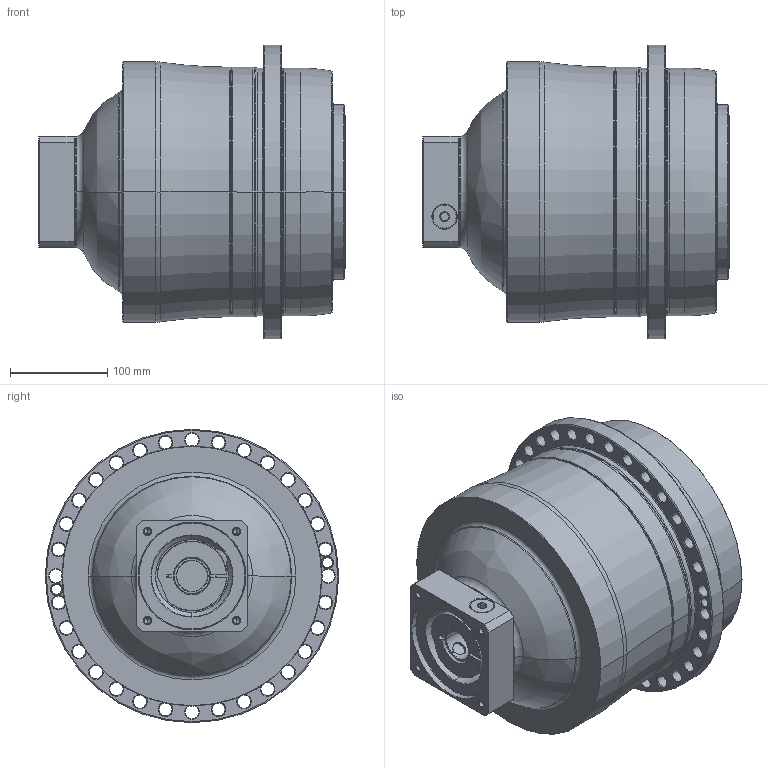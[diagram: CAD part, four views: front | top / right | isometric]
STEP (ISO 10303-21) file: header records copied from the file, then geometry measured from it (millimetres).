
FILE_DESCRIPTION((''),'2;1');
FILE_NAME('AP255_3ST_32-P0409710201_ASM','2018-06-06T',('d01226'),(''),'PRO/ENGINEER BY PARAMETRIC TECHNOLOGY CORPORATION, 2008410','PRO/ENGINEER BY PARAMETRIC TECHNOLOGY CORPORATION, 2008410','');
FILE_SCHEMA(('CONFIG_CONTROL_DESIGN'));
Length unit declared in the file: millimetre
Products named in the file (9): P0278701003; P0359701103; P1366700201; P0503700010; P0912552001; P1211700001; P0409710201; 21711418017; AP255_3ST_32-P0409710201_ASM
Assembly tree (8 placements, depth 2):
  AP255_3ST_32-P0409710201_ASM
    P0278701003
    P0359701103
    P1366700201
    P0503700010
    P0912552001
    P1211700001
    P0409710201
    21711418017
Bounding box: 315.5 x 302 x 302 mm (x, y, z)
Volume: 13088667.4 mm3; surface area: 704635.7 mm2
Topology: 9 solids, 32 shells, 677 faces, 1625 edges, 987 vertices
Faces by surface type: cylinder 267, cone 221, plane 98, torus 75, bspline 16
Entity records: 24851 total; most frequent: CARTESIAN_POINT 8275, DIRECTION 3823, ORIENTED_EDGE 3136, AXIS2_PLACEMENT_3D 1635, EDGE_CURVE 1615, VERTEX_POINT 987, CIRCLE 945, EDGE_LOOP 814
